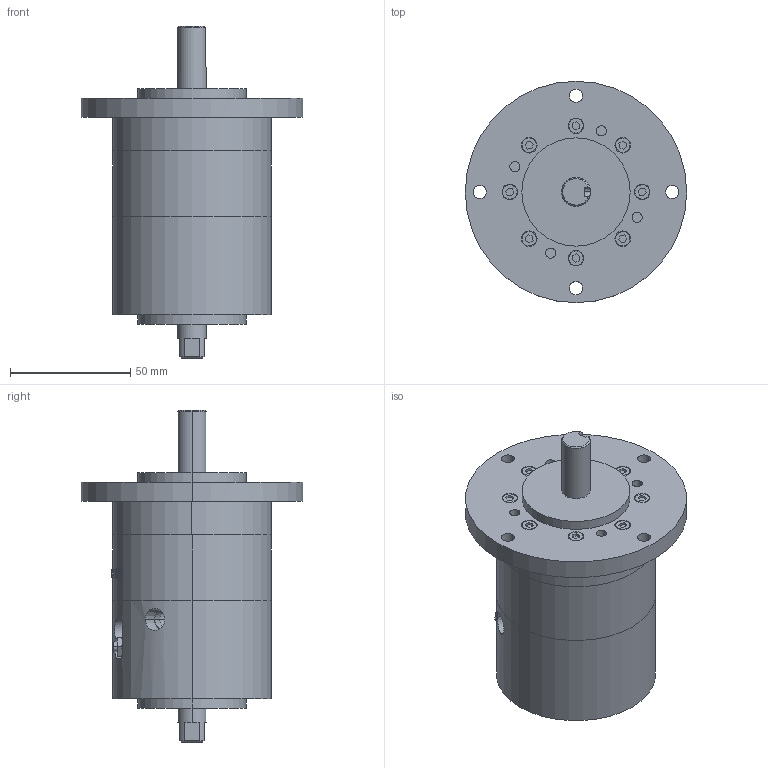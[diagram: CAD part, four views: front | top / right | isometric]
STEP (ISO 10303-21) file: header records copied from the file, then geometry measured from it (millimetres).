
FILE_DESCRIPTION (( 'STEP AP203' ), '1' );
FILE_NAME ('HRN15S-C.STEP', '2016-01-14T16:59:03', ( '' ), ( '' ), 'SwSTEP 2.0', 'SolidWorks 2014', '' );
FILE_SCHEMA (( 'CONFIG_CONTROL_DESIGN' ));
Length unit declared in the file: millimetre
Products named in the file (9): 2; 4; 6; 7; mark-15C; 1; 5; 3; HRN15S-C
Assembly tree (24 placements, depth 2):
  HRN15S-C
    1
    2  x16
    3
    5
    4  x2
    6
    7
    mark-15C
Bounding box: 92 x 92 x 138 mm (x, y, z)
Volume: 347740.8 mm3; surface area: 68842.7 mm2
Topology: 30 solids, 30 shells, 589 faces, 1333 edges, 871 vertices
Faces by surface type: plane 288, cylinder 210, cone 56, bspline 35
Entity records: 13892 total; most frequent: CARTESIAN_POINT 4602, DIRECTION 1662, ORIENTED_EDGE 1590, EDGE_CURVE 795, AXIS2_PLACEMENT_3D 681, VERTEX_POINT 523, EDGE_LOOP 430, ADVANCED_FACE 349
